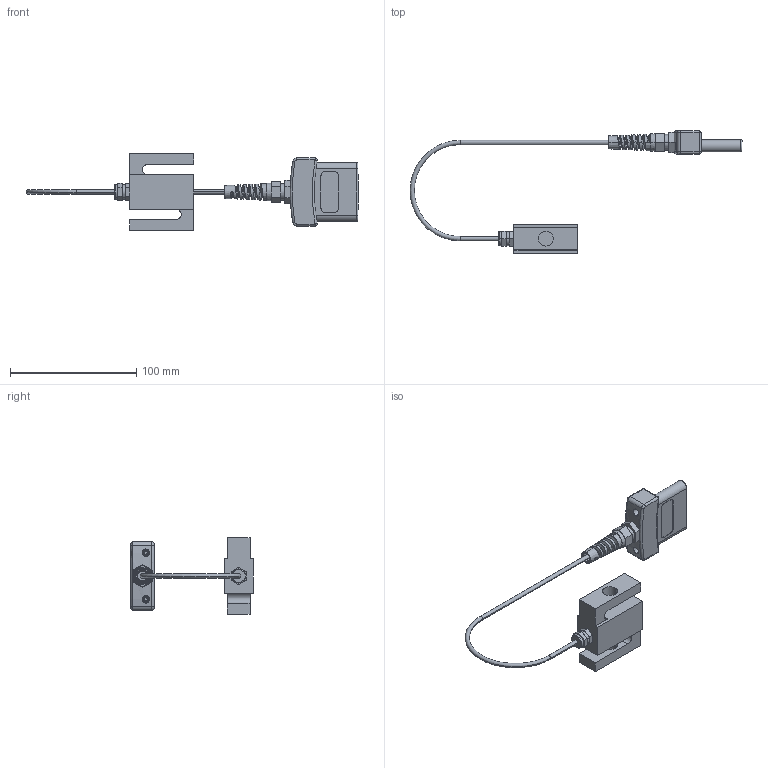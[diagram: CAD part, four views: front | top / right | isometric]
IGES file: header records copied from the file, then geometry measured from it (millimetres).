
Global section: file name: No Iges File Name specified; native system: Autodesk Inventor 2010; preprocessor: AutoDesk Inventor Iges Exporter R2010; author: mlampen; date: 20170620.145553; units: inch
Bounding box: 262.98 x 96.77 x 60.96 mm (x, y, z)
Volume: 88571.4 mm3; surface area: 30111.4 mm2
Topology: 4 solids, 4 shells, 429 faces, 1136 edges, 737 vertices
Faces by surface type: plane 149, revolution 85, bspline 81, cylinder 67, cone 27, torus 16, sphere 4
Full cylindrical faces by diameter (mm): 2.02 x13, 2.845 x14
